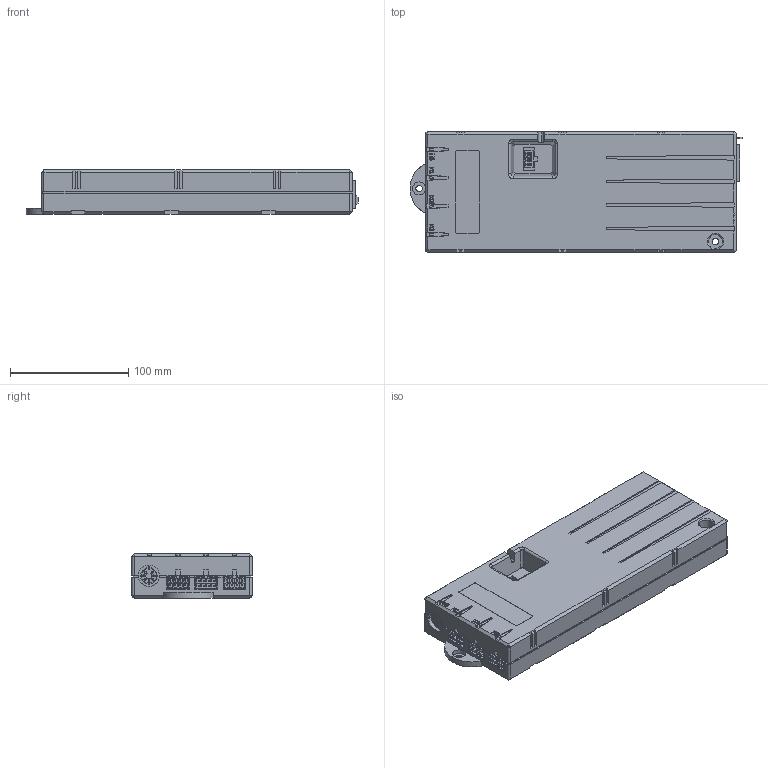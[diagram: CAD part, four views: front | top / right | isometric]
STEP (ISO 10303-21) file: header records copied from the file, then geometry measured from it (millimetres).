
FILE_DESCRIPTION(/* description */ ('Unknown','CAx-IF Rec.Pracs.---Representation and Presentation of Product Manufacturing Information (PMI)---4.0---2014-10-13','CAx-IF Rec.Pracs.---3D Tessellated Geometry---0.4---2014-09-14','2;1'),/* implementation_level */ '2;1');
FILE_NAME(/* name */ '124.002_00',/* time_stamp */ '2023-02-08T12:02:56+01:00',/* author */ ('Unknown'),/* organization */ ('Unknown'),/* preprocessor_version */ 'ST-DEVELOPER v18.102',/* originating_system */ 'Solid Edge',/* authorisation */ 'Unknown');
FILE_SCHEMA (('AP242_MANAGED_MODEL_BASED_3D_ENGINEERING_MIM_LF { 1 0 10303 442 1 1 4 }'));
Length unit declared in the file: millimetre
Products named in the file (2): 124.002; 124.00139
Assembly tree (1 placements, depth 2):
  124.002
    124.00139
Bounding box: 281.2 x 102 x 37.7 mm (x, y, z)
Volume: 961692.6 mm3; surface area: 104498.6 mm2
Topology: 1 solids, 1 shells, 905 faces, 2306 edges, 1508 vertices
Faces by surface type: plane 726, cylinder 158, cone 8, bspline 7, torus 6
Full cylindrical faces by diameter (mm): 0.5 x22, 1 x24, 1.5 x1, 5.5 x2, 11 x1, 12 x1, 13 x1, 18 x1
Entity records: 33101 total; most frequent: CARTESIAN_POINT 5196, ORIENTED_EDGE 4480, DIRECTION 4120, EDGE_CURVE 2240, LINE 1838, VECTOR 1838, VERTEX_POINT 1505, AXIS2_PLACEMENT_3D 1141
